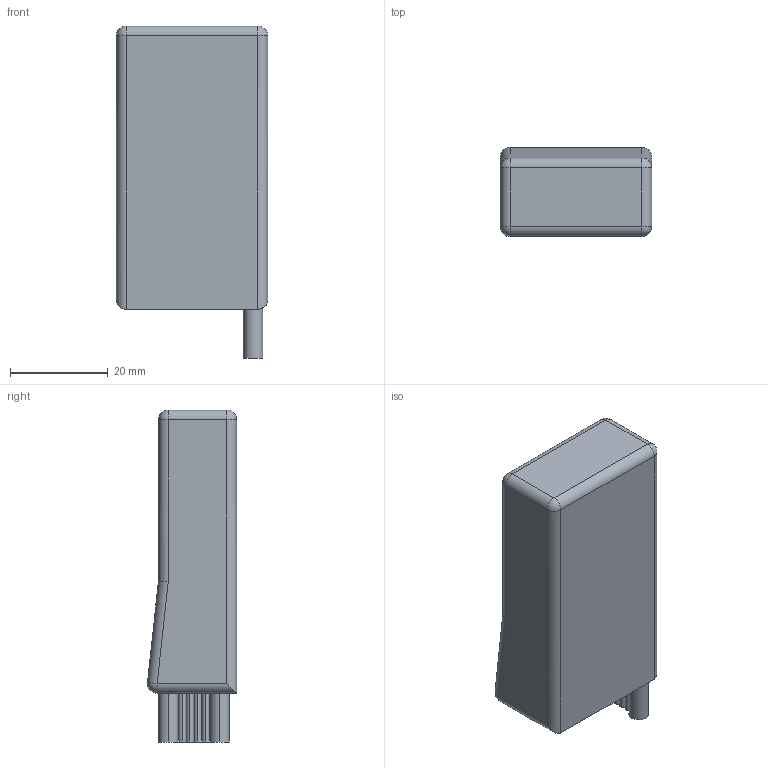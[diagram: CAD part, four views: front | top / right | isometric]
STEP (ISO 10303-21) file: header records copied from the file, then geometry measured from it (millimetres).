
FILE_DESCRIPTION (( 'STEP AP214' ), '1' );
FILE_NAME ('Batterie.STEP', '2022-05-04T14:57:47', ( '' ), ( '' ), 'SwSTEP 2.0', 'SolidWorks 2020', '' );
FILE_SCHEMA (( 'AUTOMOTIVE_DESIGN' ));
Length unit declared in the file: millimetre
Products named in the file (1): Batterie
Bounding box: 31 x 18.27 x 68 mm (x, y, z)
Volume: 29646.2 mm3; surface area: 6673.5 mm2
Topology: 1 solids, 1 shells, 46 faces, 104 edges, 58 vertices
Faces by surface type: cylinder 26, plane 13, sphere 6, bspline 1
Entity records: 1838 total; most frequent: CARTESIAN_POINT 305, DIRECTION 227, ORIENTED_EDGE 192, EDGE_CURVE 96, AXIS2_PLACEMENT_3D 92, VERTEX_POINT 56, EDGE_LOOP 50, UNCERTAINTY_MEASURE_WITH_UNIT 49
